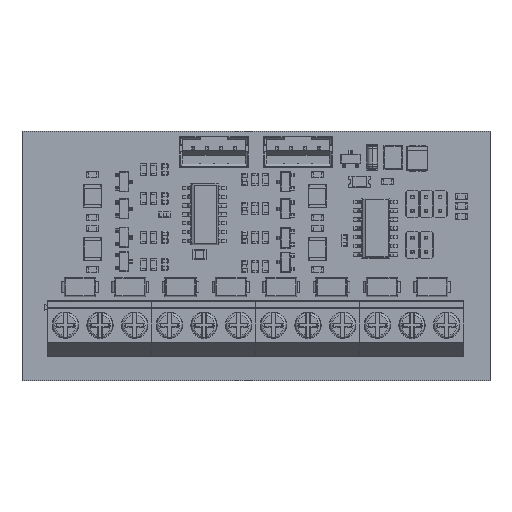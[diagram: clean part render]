
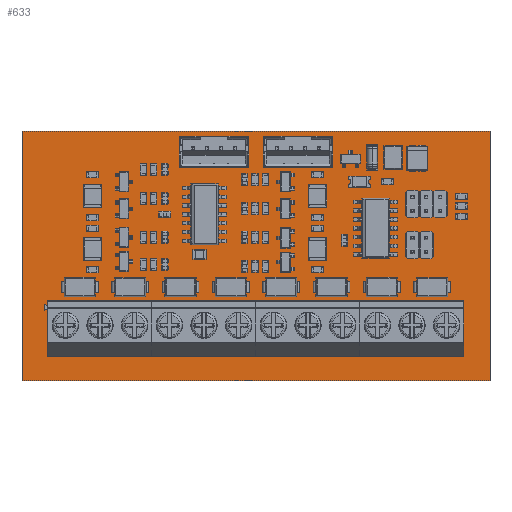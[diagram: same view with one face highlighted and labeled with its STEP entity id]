
A CAD part, top view. The second image highlights one B-rep face of the part: STEP entity #633.
In plain terms, the highlighted planar face has unit normal (0, 0, 1).
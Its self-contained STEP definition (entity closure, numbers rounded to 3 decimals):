
#319 = VERTEX_POINT('',#320);
#320 = CARTESIAN_POINT('',(67.5,0.,1.671));
#327 = PLANE('',#328);
#328 = AXIS2_PLACEMENT_3D('',#329,#330,#331);
#329 = CARTESIAN_POINT('',(67.5,0.,0.));
#330 = DIRECTION('',(-1.,0.,0.));
#331 = DIRECTION('',(0.,1.,0.));
#339 = PLANE('',#340);
#340 = AXIS2_PLACEMENT_3D('',#341,#342,#343);
#341 = CARTESIAN_POINT('',(0.,0.,0.));
#342 = DIRECTION('',(0.,1.,0.));
#343 = DIRECTION('',(1.,0.,0.));
#351 = EDGE_CURVE('',#319,#352,#354,.T.);
#352 = VERTEX_POINT('',#353);
#353 = CARTESIAN_POINT('',(67.5,36.,1.671));
#354 = SURFACE_CURVE('',#355,(#359,#366),.PCURVE_S1.);
#355 = LINE('',#356,#357);
#356 = CARTESIAN_POINT('',(67.5,0.,1.671));
#357 = VECTOR('',#358,1.);
#358 = DIRECTION('',(0.,1.,0.));
#359 = PCURVE('',#327,#360);
#360 = DEFINITIONAL_REPRESENTATION('',(#361),#365);
#361 = LINE('',#362,#363);
#362 = CARTESIAN_POINT('',(0.,-1.671));
#363 = VECTOR('',#364,1.);
#364 = DIRECTION('',(1.,0.));
#365 = ( GEOMETRIC_REPRESENTATION_CONTEXT(2) 
PARAMETRIC_REPRESENTATION_CONTEXT() REPRESENTATION_CONTEXT('2D SPACE',''
  ) );
#366 = PCURVE('',#367,#372);
#367 = PLANE('',#368);
#368 = AXIS2_PLACEMENT_3D('',#369,#370,#371);
#369 = CARTESIAN_POINT('',(67.5,0.,1.671));
#370 = DIRECTION('',(0.,0.,-1.));
#371 = DIRECTION('',(-1.,0.,0.));
#372 = DEFINITIONAL_REPRESENTATION('',(#373),#377);
#373 = LINE('',#374,#375);
#374 = CARTESIAN_POINT('',(0.,0.));
#375 = VECTOR('',#376,1.);
#376 = DIRECTION('',(0.,1.));
#377 = ( GEOMETRIC_REPRESENTATION_CONTEXT(2) 
PARAMETRIC_REPRESENTATION_CONTEXT() REPRESENTATION_CONTEXT('2D SPACE',''
  ) );
#395 = PLANE('',#396);
#396 = AXIS2_PLACEMENT_3D('',#397,#398,#399);
#397 = CARTESIAN_POINT('',(67.5,36.,0.));
#398 = DIRECTION('',(0.,-1.,0.));
#399 = DIRECTION('',(-1.,0.,0.));
#437 = EDGE_CURVE('',#352,#438,#440,.T.);
#438 = VERTEX_POINT('',#439);
#439 = CARTESIAN_POINT('',(0.,36.,1.671));
#440 = SURFACE_CURVE('',#441,(#445,#452),.PCURVE_S1.);
#441 = LINE('',#442,#443);
#442 = CARTESIAN_POINT('',(67.5,36.,1.671));
#443 = VECTOR('',#444,1.);
#444 = DIRECTION('',(-1.,0.,0.));
#445 = PCURVE('',#395,#446);
#446 = DEFINITIONAL_REPRESENTATION('',(#447),#451);
#447 = LINE('',#448,#449);
#448 = CARTESIAN_POINT('',(0.,-1.671));
#449 = VECTOR('',#450,1.);
#450 = DIRECTION('',(1.,0.));
#451 = ( GEOMETRIC_REPRESENTATION_CONTEXT(2) 
PARAMETRIC_REPRESENTATION_CONTEXT() REPRESENTATION_CONTEXT('2D SPACE',''
  ) );
#452 = PCURVE('',#367,#453);
#453 = DEFINITIONAL_REPRESENTATION('',(#454),#458);
#454 = LINE('',#455,#456);
#455 = CARTESIAN_POINT('',(0.,36.));
#456 = VECTOR('',#457,1.);
#457 = DIRECTION('',(1.,0.));
#458 = ( GEOMETRIC_REPRESENTATION_CONTEXT(2) 
PARAMETRIC_REPRESENTATION_CONTEXT() REPRESENTATION_CONTEXT('2D SPACE',''
  ) );
#476 = PLANE('',#477);
#477 = AXIS2_PLACEMENT_3D('',#478,#479,#480);
#478 = CARTESIAN_POINT('',(0.,36.,0.));
#479 = DIRECTION('',(1.,0.,0.));
#480 = DIRECTION('',(0.,-1.,0.));
#513 = EDGE_CURVE('',#438,#514,#516,.T.);
#514 = VERTEX_POINT('',#515);
#515 = CARTESIAN_POINT('',(0.,0.,1.671));
#516 = SURFACE_CURVE('',#517,(#521,#528),.PCURVE_S1.);
#517 = LINE('',#518,#519);
#518 = CARTESIAN_POINT('',(0.,36.,1.671));
#519 = VECTOR('',#520,1.);
#520 = DIRECTION('',(0.,-1.,0.));
#521 = PCURVE('',#476,#522);
#522 = DEFINITIONAL_REPRESENTATION('',(#523),#527);
#523 = LINE('',#524,#525);
#524 = CARTESIAN_POINT('',(0.,-1.671));
#525 = VECTOR('',#526,1.);
#526 = DIRECTION('',(1.,0.));
#527 = ( GEOMETRIC_REPRESENTATION_CONTEXT(2) 
PARAMETRIC_REPRESENTATION_CONTEXT() REPRESENTATION_CONTEXT('2D SPACE',''
  ) );
#528 = PCURVE('',#367,#529);
#529 = DEFINITIONAL_REPRESENTATION('',(#530),#534);
#530 = LINE('',#531,#532);
#531 = CARTESIAN_POINT('',(67.5,36.));
#532 = VECTOR('',#533,1.);
#533 = DIRECTION('',(0.,-1.));
#534 = ( GEOMETRIC_REPRESENTATION_CONTEXT(2) 
PARAMETRIC_REPRESENTATION_CONTEXT() REPRESENTATION_CONTEXT('2D SPACE',''
  ) );
#584 = EDGE_CURVE('',#514,#319,#585,.T.);
#585 = SURFACE_CURVE('',#586,(#590,#597),.PCURVE_S1.);
#586 = LINE('',#587,#588);
#587 = CARTESIAN_POINT('',(0.,0.,1.671));
#588 = VECTOR('',#589,1.);
#589 = DIRECTION('',(1.,0.,0.));
#590 = PCURVE('',#339,#591);
#591 = DEFINITIONAL_REPRESENTATION('',(#592),#596);
#592 = LINE('',#593,#594);
#593 = CARTESIAN_POINT('',(0.,-1.671));
#594 = VECTOR('',#595,1.);
#595 = DIRECTION('',(1.,0.));
#596 = ( GEOMETRIC_REPRESENTATION_CONTEXT(2) 
PARAMETRIC_REPRESENTATION_CONTEXT() REPRESENTATION_CONTEXT('2D SPACE',''
  ) );
#597 = PCURVE('',#367,#598);
#598 = DEFINITIONAL_REPRESENTATION('',(#599),#603);
#599 = LINE('',#600,#601);
#600 = CARTESIAN_POINT('',(67.5,0.));
#601 = VECTOR('',#602,1.);
#602 = DIRECTION('',(-1.,0.));
#603 = ( GEOMETRIC_REPRESENTATION_CONTEXT(2) 
PARAMETRIC_REPRESENTATION_CONTEXT() REPRESENTATION_CONTEXT('2D SPACE',''
  ) );
#633 = ADVANCED_FACE('',(#634),#367,.F.);
#634 = FACE_BOUND('',#635,.T.);
#635 = EDGE_LOOP('',(#636,#637,#638,#639));
#636 = ORIENTED_EDGE('',*,*,#351,.T.);
#637 = ORIENTED_EDGE('',*,*,#437,.T.);
#638 = ORIENTED_EDGE('',*,*,#513,.T.);
#639 = ORIENTED_EDGE('',*,*,#584,.T.);
